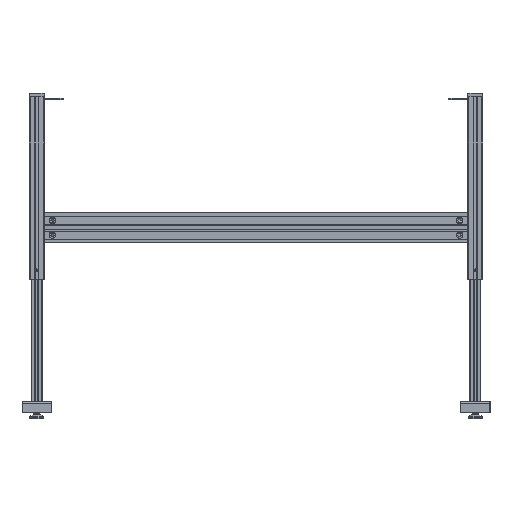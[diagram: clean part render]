
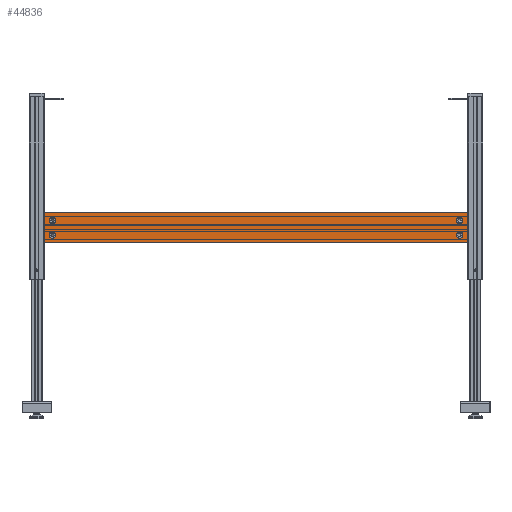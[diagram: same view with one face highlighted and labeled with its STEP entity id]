
A CAD part, left-side view. The second image highlights one B-rep face of the part: STEP entity #44836.
In plain terms, the highlighted planar face has unit normal (-1, 0, 0) as drawn and (1, 0, 0) by its records, which use the part's own axes.
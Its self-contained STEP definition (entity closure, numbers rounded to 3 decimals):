
#2977=CIRCLE('',#57227,9.);
#2978=CIRCLE('',#57228,9.);
#2979=CIRCLE('',#57229,9.);
#2980=CIRCLE('',#57230,9.);
#14761=ORIENTED_EDGE('',*,*,#22016,.T.);
#14762=ORIENTED_EDGE('',*,*,#22017,.T.);
#14763=ORIENTED_EDGE('',*,*,#22018,.T.);
#14764=ORIENTED_EDGE('',*,*,#22019,.T.);
#14765=ORIENTED_EDGE('',*,*,#22020,.T.);
#14766=ORIENTED_EDGE('',*,*,#22021,.F.);
#14767=ORIENTED_EDGE('',*,*,#22022,.T.);
#14768=ORIENTED_EDGE('',*,*,#22023,.T.);
#22016=EDGE_CURVE('',#26649,#26649,#2977,.T.);
#22017=EDGE_CURVE('',#26650,#26650,#2978,.T.);
#22018=EDGE_CURVE('',#26651,#26652,#31210,.T.);
#22019=EDGE_CURVE('',#26652,#26653,#31211,.T.);
#22020=EDGE_CURVE('',#26653,#26654,#31212,.T.);
#22021=EDGE_CURVE('',#26651,#26654,#31213,.T.);
#22022=EDGE_CURVE('',#26655,#26655,#2979,.T.);
#22023=EDGE_CURVE('',#26656,#26656,#2980,.T.);
#26649=VERTEX_POINT('',#82827);
#26650=VERTEX_POINT('',#82829);
#26651=VERTEX_POINT('',#82831);
#26652=VERTEX_POINT('',#82832);
#26653=VERTEX_POINT('',#82834);
#26654=VERTEX_POINT('',#82836);
#26655=VERTEX_POINT('',#82839);
#26656=VERTEX_POINT('',#82841);
#31210=LINE('',#82830,#35691);
#31211=LINE('',#82833,#35692);
#31212=LINE('',#82835,#35693);
#31213=LINE('',#82837,#35694);
#35691=VECTOR('',#68991,1000.);
#35692=VECTOR('',#68992,1000.);
#35693=VECTOR('',#68993,1000.);
#35694=VECTOR('',#68994,1000.);
#38265=EDGE_LOOP('',(#14761));
#38266=EDGE_LOOP('',(#14762));
#38267=EDGE_LOOP('',(#14763,#14764,#14765,#14766));
#38268=EDGE_LOOP('',(#14767));
#38269=EDGE_LOOP('',(#14768));
#40878=FACE_BOUND('',#38265,.T.);
#40879=FACE_BOUND('',#38266,.T.);
#40880=FACE_BOUND('',#38267,.T.);
#40881=FACE_BOUND('',#38268,.T.);
#40882=FACE_BOUND('',#38269,.T.);
#42634=PLANE('',#57226);
#44836=ADVANCED_FACE('',(#40878,#40879,#40880,#40881,#40882),#42634,.T.);
#57226=AXIS2_PLACEMENT_3D('',#82825,#68985,#68986);
#57227=AXIS2_PLACEMENT_3D('',#82826,#68987,#68988);
#57228=AXIS2_PLACEMENT_3D('',#82828,#68989,#68990);
#57229=AXIS2_PLACEMENT_3D('',#82838,#68995,#68996);
#57230=AXIS2_PLACEMENT_3D('',#82840,#68997,#68998);
#68985=DIRECTION('',(1.,0.,0.));
#68986=DIRECTION('',(0.,1.,0.));
#68987=DIRECTION('',(-1.,0.,0.));
#68988=DIRECTION('',(0.,0.,1.));
#68989=DIRECTION('',(-1.,0.,0.));
#68990=DIRECTION('',(0.,0.,1.));
#68991=DIRECTION('',(0.,1.,0.));
#68992=DIRECTION('',(0.,0.,1.));
#68993=DIRECTION('',(0.,-1.,0.));
#68994=DIRECTION('',(0.,0.,1.));
#68995=DIRECTION('',(-1.,0.,0.));
#68996=DIRECTION('',(0.,0.,1.));
#68997=DIRECTION('',(-1.,0.,0.));
#68998=DIRECTION('',(0.,0.,1.));
#82825=CARTESIAN_POINT('',(40.,80.,-1.));
#82826=CARTESIAN_POINT('',(40.,20.,1127.5));
#82827=CARTESIAN_POINT('',(40.,20.,1136.5));
#82828=CARTESIAN_POINT('',(40.,20.,22.5));
#82829=CARTESIAN_POINT('',(40.,20.,31.5));
#82830=CARTESIAN_POINT('',(40.,80.,0.));
#82831=CARTESIAN_POINT('',(40.,0.,0.));
#82832=CARTESIAN_POINT('',(40.,80.,0.));
#82833=CARTESIAN_POINT('',(40.,80.,-1.));
#82834=CARTESIAN_POINT('',(40.,80.,1150.));
#82835=CARTESIAN_POINT('',(40.,40.,1150.));
#82836=CARTESIAN_POINT('',(40.,0.,1150.));
#82837=CARTESIAN_POINT('',(40.,0.,-1.));
#82838=CARTESIAN_POINT('',(40.,60.,22.5));
#82839=CARTESIAN_POINT('',(40.,60.,31.5));
#82840=CARTESIAN_POINT('',(40.,60.,1127.5));
#82841=CARTESIAN_POINT('',(40.,60.,1136.5));
